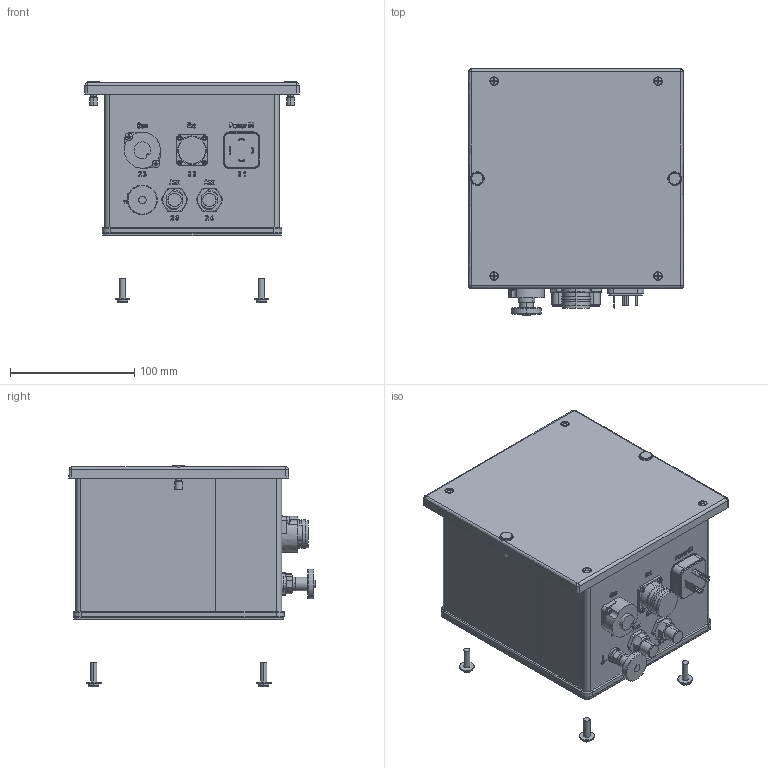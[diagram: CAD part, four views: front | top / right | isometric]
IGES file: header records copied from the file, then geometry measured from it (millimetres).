
Start section:  PTC IGES file: 24z099-en-k.igs
Global section: file name: 24z099-en-k.igs; native system: Creo Parametric by PTC Inc.; preprocessor: 2021072; author: qtmwp1; organization: Unknown; date: 20220214.115827; units: inch
Bounding box: 173 x 198.4 x 178.86 mm (x, y, z)
Surface area: 259306.4 mm2 (no closed solid volume)
Topology: 0 solids, 0 shells, 451 faces, 2547 edges, 2535 vertices
Faces by surface type: revolution 251, bspline 200
